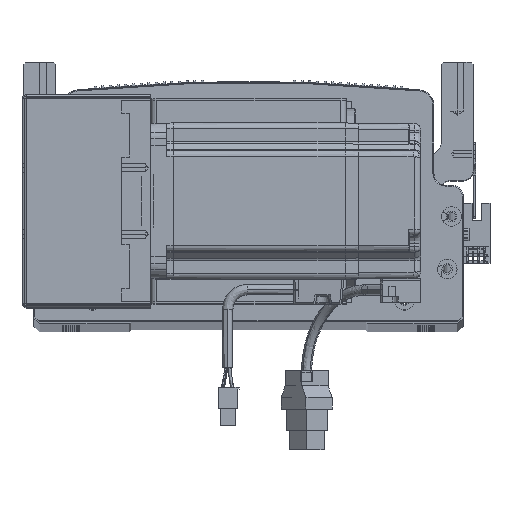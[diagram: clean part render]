
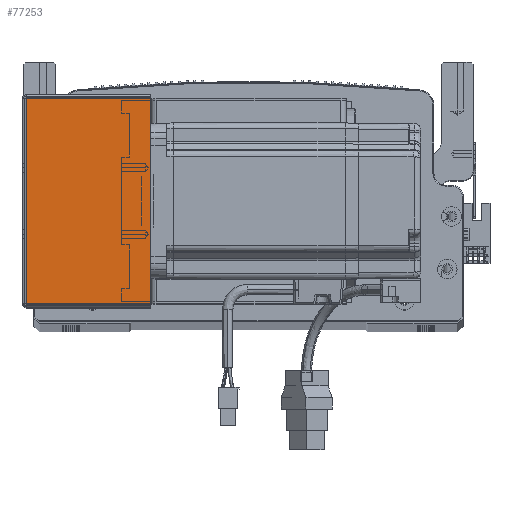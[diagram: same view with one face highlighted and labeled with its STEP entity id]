
A CAD part, top view. The second image highlights one B-rep face of the part: STEP entity #77253.
In plain terms, the highlighted planar face has unit normal (0, 0, 1) as drawn and (0, 0, -1) by its records, which use the part's own axes.
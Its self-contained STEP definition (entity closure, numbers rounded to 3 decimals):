
#782 = VECTOR ( 'NONE', #37890, 1000. ) ;
#1400 = CARTESIAN_POINT ( 'NONE',  ( 0.737, 0., -205.5 ) ) ;
#1721 = DIRECTION ( 'NONE',  ( 1., 0., 0. ) ) ;
#2189 = CARTESIAN_POINT ( 'NONE',  ( 64.5, 105.293, -205.5 ) ) ;
#3102 = LINE ( 'NONE', #1400, #782 ) ;
#5218 = CARTESIAN_POINT ( 'NONE',  ( 0.737, 105.293, -205.5 ) ) ;
#18258 = LINE ( 'NONE', #70016, #23986 ) ;
#18829 = DIRECTION ( 'NONE',  ( 1., 0., 0. ) ) ;
#21452 = ORIENTED_EDGE ( 'NONE', *, *, #41581, .F. ) ;
#23477 = VERTEX_POINT ( 'NONE', #60895 ) ;
#23986 = VECTOR ( 'NONE', #1721, 1000. ) ;
#25156 = ORIENTED_EDGE ( 'NONE', *, *, #91744, .T. ) ;
#26003 = ORIENTED_EDGE ( 'NONE', *, *, #76460, .T. ) ;
#27790 = DIRECTION ( 'NONE',  ( 0., 0., 1. ) ) ;
#28098 = CARTESIAN_POINT ( 'NONE',  ( 0., 0., -205.5 ) ) ;
#37890 = DIRECTION ( 'NONE',  ( 0., -1., 0. ) ) ;
#41561 = FACE_OUTER_BOUND ( 'NONE', #85032, .T. ) ;
#41581 = EDGE_CURVE ( 'NONE', #46453, #94426, #3102, .T. ) ;
#43128 = PLANE ( 'NONE',  #53335 ) ;
#44574 = EDGE_CURVE ( 'NONE', #94426, #23477, #62265, .T. ) ;
#46453 = VERTEX_POINT ( 'NONE', #5218 ) ;
#48409 = VECTOR ( 'NONE', #18829, 1000. ) ;
#48980 = CARTESIAN_POINT ( 'NONE',  ( 0., 0.707, -205.5 ) ) ;
#49268 = DIRECTION ( 'NONE',  ( 1., 0., 0. ) ) ;
#50266 = VERTEX_POINT ( 'NONE', #2189 ) ;
#53335 = AXIS2_PLACEMENT_3D ( 'NONE', #28098, #27790, #49268 ) ;
#58992 = LINE ( 'NONE', #77013, #89959 ) ;
#60895 = CARTESIAN_POINT ( 'NONE',  ( 64.5, 0.707, -205.5 ) ) ;
#61960 = CARTESIAN_POINT ( 'NONE',  ( 0.737, 0.707, -205.5 ) ) ;
#62265 = LINE ( 'NONE', #48980, #48409 ) ;
#63570 = ORIENTED_EDGE ( 'NONE', *, *, #44574, .F. ) ;
#70016 = CARTESIAN_POINT ( 'NONE',  ( 0., 105.293, -205.5 ) ) ;
#76460 = EDGE_CURVE ( 'NONE', #50266, #23477, #58992, .T. ) ;
#77013 = CARTESIAN_POINT ( 'NONE',  ( 64.5, 0., -205.5 ) ) ;
#77253 = ADVANCED_FACE ( 'NONE', ( #41561 ), #43128, .F. ) ;
#84412 = DIRECTION ( 'NONE',  ( 0., -1., 0. ) ) ;
#85032 = EDGE_LOOP ( 'NONE', ( #21452, #25156, #26003, #63570 ) ) ;
#89959 = VECTOR ( 'NONE', #84412, 1000. ) ;
#91744 = EDGE_CURVE ( 'NONE', #46453, #50266, #18258, .T. ) ;
#94426 = VERTEX_POINT ( 'NONE', #61960 ) ;
